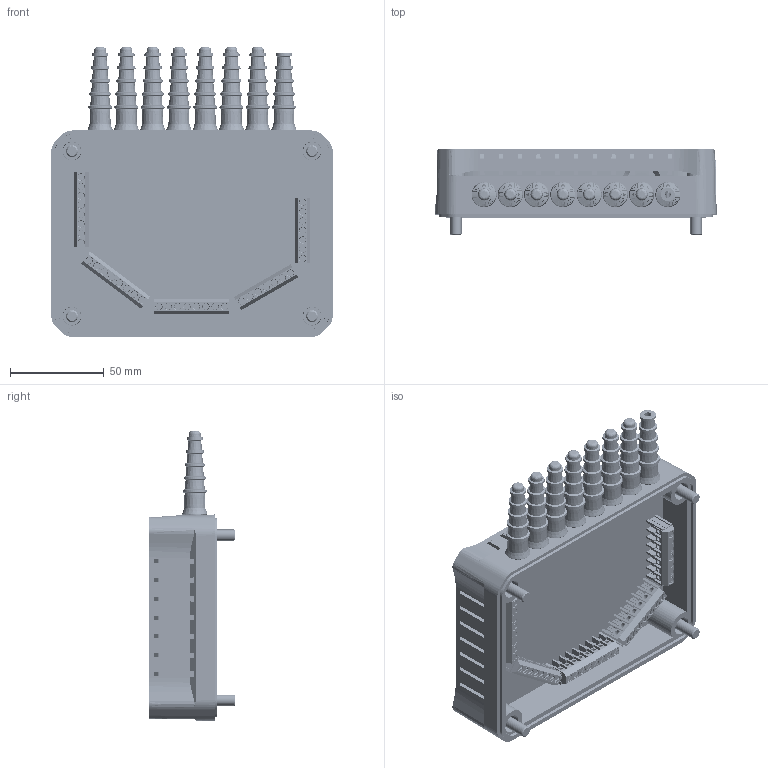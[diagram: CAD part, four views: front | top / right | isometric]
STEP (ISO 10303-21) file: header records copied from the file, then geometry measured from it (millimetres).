
FILE_DESCRIPTION (( 'STEP AP203' ), '1' );
FILE_NAME ('S-1354.STEP', '2018-05-28T09:46:54', ( '' ), ( '' ), 'SwSTEP 2.0', 'SolidWorks 2018', '' );
FILE_SCHEMA (( 'CONFIG_CONTROL_DESIGN' ));
Products named in the file (1): S-1354
Bounding box: 150 x 46 x 154.41 mm (x, y, z)
Volume: 331775.6 mm3; surface area: 126071 mm2
Topology: 11 solids, 19 shells, 6348 faces, 18973 edges, 12728 vertices
Faces by surface type: plane 3660, cylinder 1689, cone 793, torus 114, bspline 92
Entity records: 227304 total; most frequent: CARTESIAN_POINT 60680, ORIENTED_EDGE 37930, DIRECTION 31256, EDGE_CURVE 18965, VERTEX_POINT 12728, VECTOR 11568, LINE 11568, AXIS2_PLACEMENT_3D 9844
